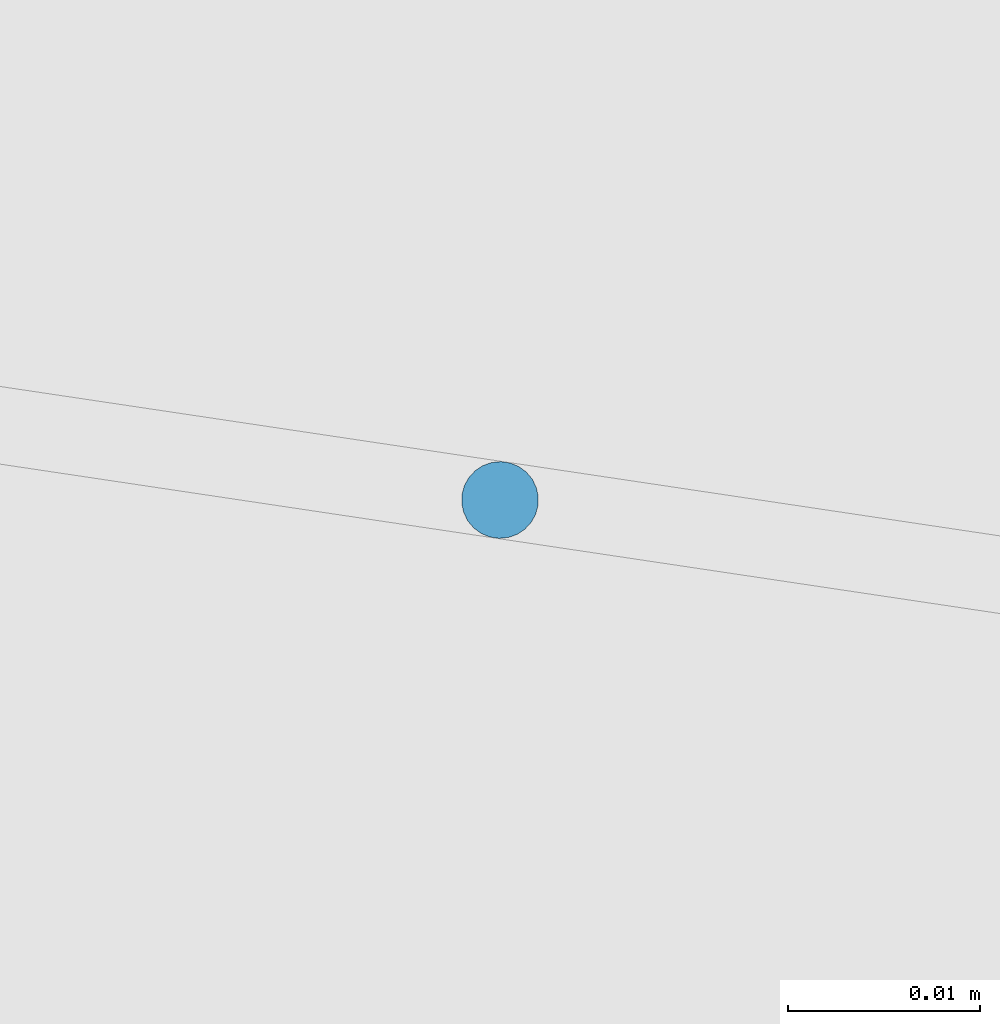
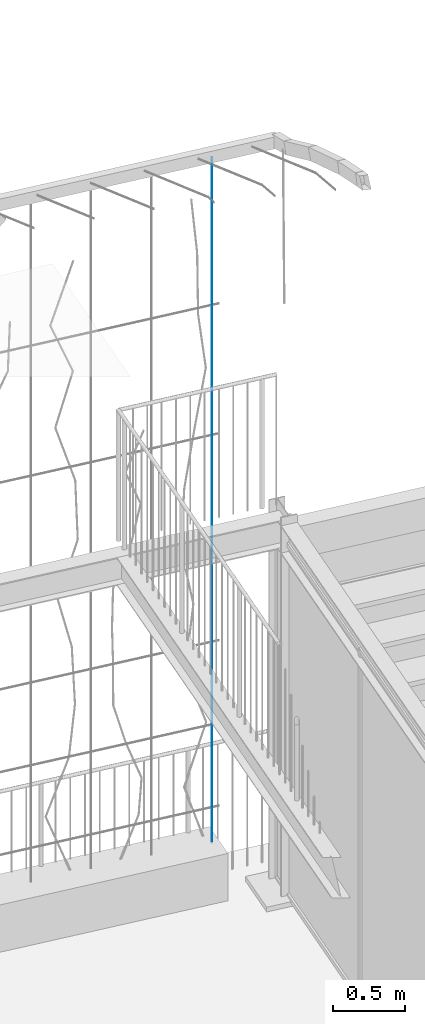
# One storey, part 46 of 143: 1 member, 1 element without a shape of its own.
"""IFC4 building model written with IfcOpenShell, lengths in metres."""

from ifc_helpers import new_model, si_unit, direction, frame, origin_with_axes, place, context, subcontext, project, spatial, circle, extrude, material, material_profile, profile_set, profile_usage, type_object, element, aggregate, save


model = new_model("IFC4")

# Units and contexts
model_context = context("Model", 3, precision=1e-05, world=origin_with_axes(), true_north=direction((0.0, 1.0)))
body_context = subcontext(model_context, "Body", "Model", "MODEL_VIEW")
ifc_project = project(units=[si_unit("VOLUMEUNIT", "CUBIC_METRE"), si_unit("LENGTHUNIT", "METRE"), si_unit("AREAUNIT", "SQUARE_METRE")], contexts=[model_context])

# Site, building, storey
site_placement = place(None, origin_with_axes())
site = spatial("IfcSite", under=ifc_project, at=site_placement, Name="Lares · Rua das Mercês · artigo 4771")
building_placement = place(site_placement, frame((15.0, 9.7, 15.8), z_axis=(0.0, 0.0, 1.0), x_axis=(0.989015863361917, -0.147809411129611, 0.0)))
building = spatial("IfcBuilding", under=site, at=building_placement, Name="Casa Sobreposta")
storey_placement = place(building_placement, origin_with_axes())
storey = spatial("IfcBuildingStorey", under=building, at=storey_placement, Name="00 · Habitação e estacionamento", Elevation=15.8)

# Assembly, member
assembly_placement = place(storey_placement, origin_with_axes())
assembly = element("IfcElementAssembly", 1, at=assembly_placement, inside=storey, Name="Fachada sul e pátio · estrutura e trepadeiras", ObjectType="LIVING_SHADE_TRELLIS", PredefinedType="USERDEFINED")
ifc_material = material(Name="Aço galvanizado / Stahl verzinkt", Category="steel")
ifc_material_profile = material_profile(ifc_material, circle(Radius=0.002))
ifc_profile_set = profile_set([ifc_material_profile], Name="D0.004")
ifc_profile_usage = profile_usage(ifc_profile_set)
member_type = type_object("IfcMemberType", Name="D0.004 / galvanized", PredefinedType="NOTDEFINED", material=ifc_profile_set)
member_placement = place(assembly_placement, frame((-0.449999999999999, 6.48, 0.35), z_axis=(0.0, 0.0, 1.0), x_axis=(1.0, 0.0, 0.0)))
member = element("IfcMember", 2, at=member_placement, type_object=member_type, material=ifc_profile_usage, Name="Trepadeiras · fio vertical", context=body_context, shape_type="SweptSolid", body=[
    extrude(circle(Radius=0.002), origin_with_axes(), (0.0, 0.0, 1.0), 5.8),
])
aggregate(assembly, [member])

save(model, "model.ifc")
